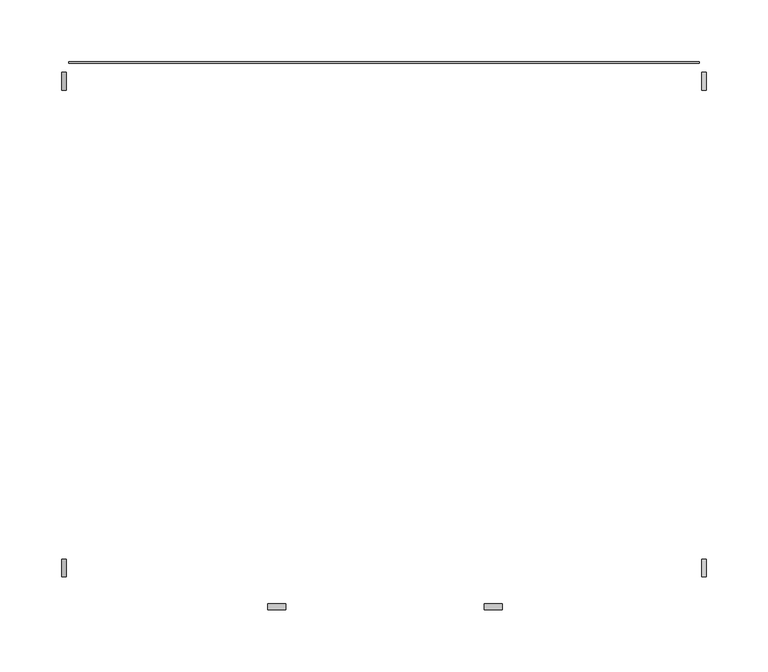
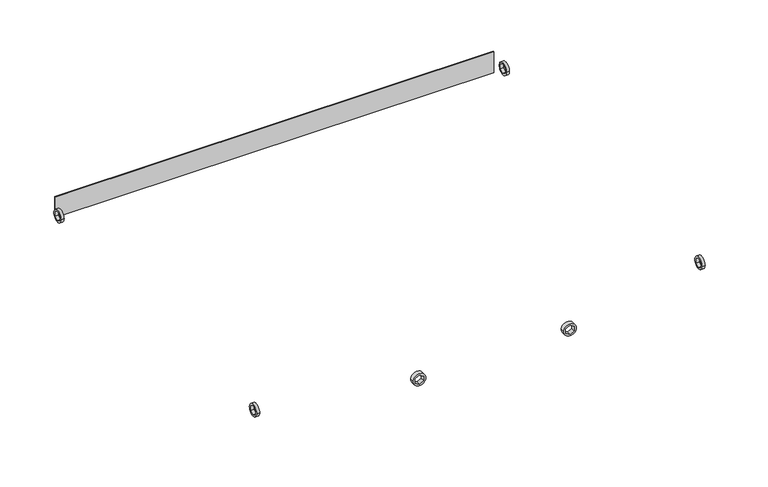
"""IFC4 building model written with IfcOpenShell, lengths in millimetres: proxy geometry, TRF2 - 480V-208Vor 120V_ Step_down_transformer_BIM_Model : TRF2 - 480V-208Vor 120V_ Step_down_transformer_BIM_Model."""

import ifcopenshell
import ifcopenshell.guid

model = None  # the IFC model being written
_history = None  # IfcOwnerHistory: only IFC2X3 demands one
_inside = {}  # id of a spatial element -> (the spatial element, [elements in it])
_under = {}  # id of a project, library or spatial element -> (it, [spatial elements below it])
_declared = {}  # id of a project -> (the project, [libraries it declares])
_typed = {}  # id of a type object -> (the type object, [elements of that type])
_made_of = {}  # id of a material, layer set ... -> (it, [elements and type objects made of it])


def new_model(schema):
    """Start an empty IFC model of exactly this schema.

    Asked for "IFC4X3", IfcOpenShell would pick the latest addendum, in which some entities
    have other attributes; the version numbers below select the first issue.
    IFC2X3 requires an IfcOwnerHistory on every rooted entity: one is made here for all.
    """
    global model, _history
    if schema == "IFC4X3":
        model = ifcopenshell.file(schema_version=(4, 3, 0, 0))
    else:
        model = ifcopenshell.file(schema=schema)
    _inside.clear()
    _under.clear()
    _declared.clear()
    _typed.clear()
    _made_of.clear()
    _history = None
    if model.schema == "IFC2X3":
        org = make("IfcOrganization", Name="unknown")
        user = make(
            "IfcPersonAndOrganization",
            ThePerson=make("IfcPerson", FamilyName="unknown"),
            TheOrganization=org,
        )
        app = make(
            "IfcApplication",
            ApplicationDeveloper=org,
            Version="unknown",
            ApplicationFullName="unknown",
            ApplicationIdentifier="unknown",
        )
        _history = make(
            "IfcOwnerHistory",
            OwningUser=user,
            OwningApplication=app,
            ChangeAction="ADDED",
            CreationDate=0,
        )
    return model


def make(cls, **values):
    """One entity of the class cls with the attributes given. An attribute that is None is left unset."""
    return model.create_entity(
        cls, **{name: value for name, value in values.items() if value is not None}
    )


def rooted(cls, **values):
    """An entity with a GlobalId (a new one), such as an element, a storey or a relation."""
    return make(cls, GlobalId=ifcopenshell.guid.new(), OwnerHistory=_history, **values)


def si_unit(unit_type, name, prefix=None):
    """IfcSIUnit, for example si_unit("LENGTHUNIT", "METRE", prefix="MILLI")."""
    return make("IfcSIUnit", UnitType=unit_type, Prefix=prefix, Name=name)


def assignment(units):
    """IfcUnitAssignment: the units of a project."""
    return None if units is None else make("IfcUnitAssignment", Units=units)


def point(xyz):
    """IfcCartesianPoint."""
    return None if xyz is None else make("IfcCartesianPoint", Coordinates=xyz)


def direction(xyz):
    """IfcDirection."""
    return None if xyz is None else make("IfcDirection", DirectionRatios=xyz)


def frame(location, z_axis=None, x_axis=None):
    """IfcAxis2Placement3D, a coordinate frame: its origin and axes. An axis left out is left unset."""
    return make(
        "IfcAxis2Placement3D",
        Location=point(location),
        Axis=direction(z_axis),
        RefDirection=direction(x_axis),
    )


def frame_2d(location, x_axis=None):
    """IfcAxis2Placement2D, a coordinate frame in the plane: its origin and x axis."""
    return make(
        "IfcAxis2Placement2D", Location=point(location), RefDirection=direction(x_axis)
    )


def origin():
    """The frame at (0, 0, 0) with its axes left unset."""
    return frame((0.0, 0.0, 0.0))


def place(relative_to, where):
    """IfcLocalPlacement: puts the frame where relative to a parent placement (None: the world)."""
    return make(
        "IfcLocalPlacement", PlacementRelTo=relative_to, RelativePlacement=where
    )


def context(
    kind, dimensions, precision=None, world=None, true_north=None, identifier=None
):
    """IfcGeometricRepresentationContext, for example the 3D "Model" context."""
    return make(
        "IfcGeometricRepresentationContext",
        ContextIdentifier=identifier,
        ContextType=kind,
        CoordinateSpaceDimension=dimensions,
        Precision=precision,
        WorldCoordinateSystem=world,
        TrueNorth=true_north,
    )


def project(units=None, contexts=None):
    """IfcProject with its units and contexts."""
    return rooted(
        "IfcProject",
        Name="project",
        RepresentationContexts=contexts,
        UnitsInContext=assignment(units),
    )


def spatial(cls, under=None, at=None, **own):
    """A site, building, storey or space (cls), placed at a placement, below another one or the project."""
    s = rooted(cls, ObjectPlacement=at, **own)
    if under is not None:
        _under.setdefault(under.id(), (under, []))[1].append(s)
    return s


def polyline(points):
    """IfcPolyline through the points."""
    return make("IfcPolyline", Points=[point(p) for p in points])


def circle_curve(where, radius):
    """IfcCircle in the frame where."""
    return make("IfcCircle", Position=where, Radius=radius)


def trimmed(basis, trim1, trim2, sense, master):
    """IfcTrimmedCurve: the piece of a basis curve between two trims."""
    return make(
        "IfcTrimmedCurve",
        BasisCurve=basis,
        Trim1=trim1,
        Trim2=trim2,
        SenseAgreement=sense,
        MasterRepresentation=master,
    )


def segment(curve, same_sense, transition):
    """IfcCompositeCurveSegment."""
    return make(
        "IfcCompositeCurveSegment",
        Transition=transition,
        SameSense=same_sense,
        ParentCurve=curve,
    )


def composite_curve(segments, self_intersect=None):
    """IfcCompositeCurve: segments joined end to end."""
    return make("IfcCompositeCurve", Segments=segments, SelfIntersect=self_intersect)


def outline(outer, holes=None, kind="AREA"):
    """IfcArbitraryClosedProfileDef: a profile drawn as a closed curve; with holes, ...WithVoids."""
    if holes is None:
        return make("IfcArbitraryClosedProfileDef", ProfileType=kind, OuterCurve=outer)
    return make(
        "IfcArbitraryProfileDefWithVoids",
        ProfileType=kind,
        OuterCurve=outer,
        InnerCurves=holes,
    )


def extrude(swept, where, along, depth):
    """IfcExtrudedAreaSolid: the profile swept, set in the frame where, extruded along a direction by depth."""
    return make(
        "IfcExtrudedAreaSolid",
        SweptArea=swept,
        Position=where,
        ExtrudedDirection=direction(along),
        Depth=depth,
    )


def shape(context_of_items, identifier, shape_type, items):
    """IfcShapeRepresentation: the items that make up one representation, for example the "Body"."""
    return make(
        "IfcShapeRepresentation",
        ContextOfItems=context_of_items,
        RepresentationIdentifier=identifier,
        RepresentationType=shape_type,
        Items=items,
    )


def source(mapping_origin, context_of_items, identifier, shape_type, items):
    """IfcRepresentationMap: a shape defined once, which mapped items show again and again."""
    return make(
        "IfcRepresentationMap",
        MappingOrigin=mapping_origin,
        MappedRepresentation=shape(context_of_items, identifier, shape_type, items),
    )


def transform(
    local_origin,
    x_axis=None,
    y_axis=None,
    z_axis=None,
    scale=None,
    scale2=None,
    scale3=None,
    uniform=True,
):
    """IfcCartesianTransformationOperator3D, or its non-uniform kind. x_axis, y_axis, z_axis: its Axis1, 2, 3."""
    if uniform:
        return make(
            "IfcCartesianTransformationOperator3D",
            Axis1=direction(x_axis),
            Axis2=direction(y_axis),
            LocalOrigin=point(local_origin),
            Scale=scale,
            Axis3=direction(z_axis),
        )
    return make(
        "IfcCartesianTransformationOperator3DnonUniform",
        Axis1=direction(x_axis),
        Axis2=direction(y_axis),
        LocalOrigin=point(local_origin),
        Scale=scale,
        Axis3=direction(z_axis),
        Scale2=scale2,
        Scale3=scale3,
    )


def mapped(mapping_source, mapping_target):
    """IfcMappedItem: shows the shape of a source again, moved by a transform."""
    return make(
        "IfcMappedItem", MappingSource=mapping_source, MappingTarget=mapping_target
    )


def made_of(thing, what):
    """Note that an element or type object is made of a material, layer set ...; save() writes the relation."""
    if what is not None:
        _made_of.setdefault(what.id(), (what, []))[1].append(thing)
    return thing


def element(
    cls,
    number,
    at=None,
    inside=None,
    cuts=None,
    type_object=None,
    material=None,
    context=None,
    identifier="Body",
    shape_type=None,
    held_by="IfcProductDefinitionShape",
    body=None,
    shapes=None,
    **own,
):
    """One element of the class cls, such as IfcWall. Its Tag is "e" and its number.

    at: its placement. inside: the storey or other place that contains it. cuts: it is an
    opening in that element (IfcRelVoidsElement). A single representation is given by context,
    identifier, shape_type and body (its items); several are given by shapes. held_by: the class
    of the entity that holds the representations. save() writes the other relations.
    """
    e = rooted(cls, Tag="e%d" % number, ObjectPlacement=at, **own)
    if body is not None:
        shapes = [shape(context, identifier, shape_type, body)]
    if shapes is not None:
        e.Representation = make(held_by, Representations=shapes)
    if inside is not None:
        _inside.setdefault(inside.id(), (inside, []))[1].append(e)
    if cuts is not None:
        rooted(
            "IfcRelVoidsElement", RelatingBuildingElement=cuts, RelatedOpeningElement=e
        )
    if type_object is not None:
        _typed.setdefault(type_object.id(), (type_object, []))[1].append(e)
    return made_of(e, material)


def aggregate(whole, parts):
    """IfcRelAggregates: a whole, such as a stair, and the parts it consists of."""
    return rooted("IfcRelAggregates", RelatingObject=whole, RelatedObjects=parts)


def save(model, path):
    """Write the relations noted so far, then the file.

    IfcRelAggregates (storeys below a building ...), IfcRelContainedInSpatialStructure (elements
    in a storey), IfcRelDefinesByType, IfcRelAssociatesMaterial and IfcRelDeclares: one each for
    every whole, place, type object, material and project.
    """
    for whole, parts in _under.values():
        aggregate(whole, parts)
    for where, things in _inside.values():
        rooted(
            "IfcRelContainedInSpatialStructure",
            RelatedElements=things,
            RelatingStructure=where,
        )
    for kind, things in _typed.values():
        rooted("IfcRelDefinesByType", RelatedObjects=things, RelatingType=kind)
    for what, things in _made_of.values():
        rooted("IfcRelAssociatesMaterial", RelatedObjects=things, RelatingMaterial=what)
    for by, libraries in _declared.values():
        rooted("IfcRelDeclares", RelatingContext=by, RelatedDefinitions=libraries)
    model.write(path)


def electrical_equipment_6561f704(model_context):
    return source(origin(), model_context, "Body", "SweptSolid", [
        extrude(outline(polyline([(254.8, 218.1), (-254.8, 218.1), (-254.8, 219.080477), (254.8, 219.080477), (254.8, 218.1)])), frame((0.0, 0.0, 658.0609045), z_axis=(0.0, 0.0, 1.0), x_axis=(1.0, 0.0, 0.0)), (0.0, 0.0, 1.0), 25.615881),
        extrude(outline(composite_curve([segment(trimmed(circle_curve(frame_2d((668.1293509, 88.2082)), 7.2389997), [point((668.1293509, 80.9692003))], [point((668.1293509, 95.4471997))], False, "CARTESIAN"), True, "CONTINUOUS"), segment(trimmed(circle_curve(frame_2d((668.1293509, 88.2082)), 7.2389997), [point((668.1293509, 95.4471997))], [point((668.1293509, 80.9692003))], False, "CARTESIAN"), True, "CONTINUOUS")], self_intersect=False), holes=[polyline([(670.878979, 83.4457043), (673.6286072, 88.2082), (670.878979, 92.9706957), (665.3797227, 92.9706957), (662.6300945, 88.2082), (665.3797227, 83.4457043), (670.878979, 83.4457043)])]), frame((0.0, -224.080477, 0.0), z_axis=(0.0, 1.0, 0.0), x_axis=(0.0, 0.0, 1.0)), (0.0, 0.0, 1.0), 5.0),
        extrude(outline(composite_curve([segment(trimmed(circle_curve(frame_2d((668.1293509, -86.7918)), 7.2389997), [point((668.1293509, -94.0307997))], [point((668.1293509, -79.5528003))], False, "CARTESIAN"), True, "CONTINUOUS"), segment(trimmed(circle_curve(frame_2d((668.1293509, -86.7918)), 7.2389997), [point((668.1293509, -79.5528003))], [point((668.1293509, -94.0307997))], False, "CARTESIAN"), True, "CONTINUOUS")], self_intersect=False), holes=[polyline([(670.878979, -91.5542957), (673.6286072, -86.7918), (670.878979, -82.0293043), (665.3797227, -82.0293043), (662.6300945, -86.7918), (665.3797227, -91.5542957), (670.878979, -91.5542957)])]), frame((0.0, -224.080477, 0.0), z_axis=(0.0, 1.0, 0.0), x_axis=(0.0, 0.0, 1.0)), (0.0, 0.0, 1.0), 5.0),
        extrude(outline(composite_curve([segment(trimmed(circle_curve(frame_2d((203.5256717, 670.8123696)), 7.2409723), [point((210.766644, 670.8123696))], [point((196.2846994, 670.8123696))], False, "CARTESIAN"), True, "CONTINUOUS"), segment(trimmed(circle_curve(frame_2d((203.5256717, 670.8123696)), 7.2409723), [point((196.2846994, 670.8123696))], [point((210.766644, 670.8123696))], False, "CARTESIAN"), True, "CONTINUOUS")], self_intersect=False), holes=[polyline([(198.7631801, 673.5619954), (198.7631801, 668.0627438), (203.5256717, 665.313118), (208.2881633, 668.0627438), (208.2881633, 673.5619954), (203.5256717, 676.3116213), (198.7631801, 673.5619954)])]), frame((-260.5, 0.0, 0.0), z_axis=(1.0, 0.0, 0.0), x_axis=(0.0, 1.0, 0.0)), (0.0, 0.0, 1.0), 3.5),
        extrude(outline(composite_curve([segment(trimmed(circle_curve(frame_2d((203.5256717, 670.8123696)), 7.2409723), [point((210.766644, 670.8123696))], [point((196.2846994, 670.8123696))], False, "CARTESIAN"), True, "CONTINUOUS"), segment(trimmed(circle_curve(frame_2d((203.5256717, 670.8123696)), 7.2409723), [point((196.2846994, 670.8123696))], [point((210.766644, 670.8123696))], False, "CARTESIAN"), True, "CONTINUOUS")], self_intersect=False), holes=[polyline([(198.7631801, 673.5619954), (198.7631801, 668.0627438), (203.5256717, 665.313118), (208.2881633, 668.0627438), (208.2881633, 673.5619954), (203.5256717, 676.3116213), (198.7631801, 673.5619954)])]), frame((257.0, 0.0, 0.0), z_axis=(1.0, 0.0, 0.0), x_axis=(0.0, 1.0, 0.0)), (0.0, 0.0, 1.0), 3.5),
        extrude(outline(composite_curve([segment(trimmed(circle_curve(frame_2d((-190.1817826, 670.8123696)), 7.2409723), [point((-182.9408103, 670.8123696))], [point((-197.4227549, 670.8123696))], False, "CARTESIAN"), True, "CONTINUOUS"), segment(trimmed(circle_curve(frame_2d((-190.1817826, 670.8123696)), 7.2409723), [point((-197.4227549, 670.8123696))], [point((-182.9408103, 670.8123696))], False, "CARTESIAN"), True, "CONTINUOUS")], self_intersect=False), holes=[polyline([(-194.9442742, 673.5619954), (-194.9442742, 668.0627438), (-190.1817826, 665.313118), (-185.419291, 668.0627438), (-185.419291, 673.5619954), (-190.1817826, 676.3116213), (-194.9442742, 673.5619954)])]), frame((-260.5, 0.0, 0.0), z_axis=(1.0, 0.0, 0.0), x_axis=(0.0, 1.0, 0.0)), (0.0, 0.0, 1.0), 3.5),
        extrude(outline(composite_curve([segment(trimmed(circle_curve(frame_2d((-190.1817826, 670.8123696)), 7.2409723), [point((-182.9408103, 670.8123696))], [point((-197.4227549, 670.8123696))], False, "CARTESIAN"), True, "CONTINUOUS"), segment(trimmed(circle_curve(frame_2d((-190.1817826, 670.8123696)), 7.2409723), [point((-197.4227549, 670.8123696))], [point((-182.9408103, 670.8123696))], False, "CARTESIAN"), True, "CONTINUOUS")], self_intersect=False), holes=[polyline([(-194.9442742, 673.5619954), (-194.9442742, 668.0627438), (-190.1817826, 665.313118), (-185.419291, 668.0627438), (-185.419291, 673.5619954), (-190.1817826, 676.3116213), (-194.9442742, 673.5619954)])]), frame((257.0, 0.0, 0.0), z_axis=(1.0, 0.0, 0.0), x_axis=(0.0, 1.0, 0.0)), (0.0, 0.0, 1.0), 3.5),
    ])


if __name__ == "__main__":
    model = new_model("IFC4")
    model_context = context("Model", 3, world=origin())
    ifc_project = project(units=[si_unit("LENGTHUNIT", "METRE", prefix="MILLI")], contexts=[model_context])
    site = spatial("IfcSite", under=ifc_project)
    building = spatial("IfcBuilding", under=site)
    placement = place(None, origin())
    electrical_equipment_shape = electrical_equipment_6561f704(model_context)
    element("IfcBuildingElementProxy", 1, Name="TRF2 - 480V-208Vor 120V_ Step_down_transformer_BIM_Model : TRF2 - 480V-208Vor 120V_ Step_down_transformer_BIM_Model", ObjectType="TRF2 - 480V-208Vor 120V_ Step_down_transformer_BIM_Model : TRF2 - 480V-208Vor 120V_ Step_down_transformer_BIM_Model", at=placement, inside=building, context=model_context, shape_type="MappedRepresentation", body=[
        mapped(electrical_equipment_shape, transform((0.0, 0.0, 0.0), x_axis=(1.0, 0.0, 0.0), y_axis=(0.0, 1.0, 0.0), z_axis=(0.0, 0.0, 1.0))),
    ])
    save(model, "model.ifc")
